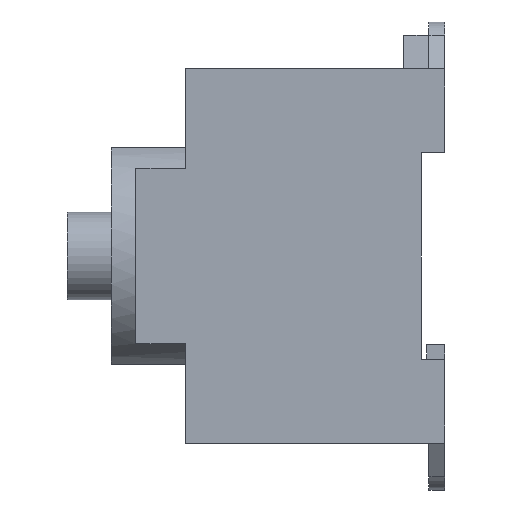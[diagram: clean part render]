
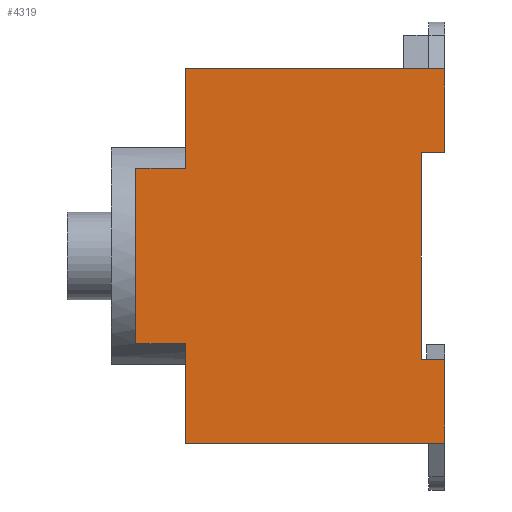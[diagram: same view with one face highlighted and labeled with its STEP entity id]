
A CAD part, left-side view. The second image highlights one B-rep face of the part: STEP entity #4319.
In plain terms, the highlighted planar face has unit normal (-1, 0, 0).
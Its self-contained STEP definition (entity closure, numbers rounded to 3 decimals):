
#6 = EDGE_CURVE ( 'NONE', #1504, #5089, #507, .T. ) ;
#15 = ORIENTED_EDGE ( 'NONE', *, *, #517, .F. ) ;
#148 = EDGE_CURVE ( 'NONE', #3187, #2192, #4290, .T. ) ;
#149 = VECTOR ( 'NONE', #1708, 1000. ) ;
#240 = EDGE_CURVE ( 'NONE', #4952, #4084, #3724, .T. ) ;
#400 = DIRECTION ( 'NONE',  ( 0., 0., -1. ) ) ;
#408 = EDGE_CURVE ( 'NONE', #1504, #1253, #3778, .T. ) ;
#423 = VECTOR ( 'NONE', #4662, 1000. ) ;
#491 = VERTEX_POINT ( 'NONE', #3114 ) ;
#507 = LINE ( 'NONE', #4454, #4189 ) ;
#517 = EDGE_CURVE ( 'NONE', #491, #4124, #2292, .T. ) ;
#539 = DIRECTION ( 'NONE',  ( 0., 0., 1. ) ) ;
#542 = DIRECTION ( 'NONE',  ( 0., -1., 0. ) ) ;
#554 = CARTESIAN_POINT ( 'NONE',  ( -24., 0., -17.65 ) ) ;
#594 = ORIENTED_EDGE ( 'NONE', *, *, #5120, .F. ) ;
#629 = EDGE_CURVE ( 'NONE', #4512, #1788, #3035, .T. ) ;
#801 = CARTESIAN_POINT ( 'NONE',  ( -24., 44.3, -32. ) ) ;
#826 = CARTESIAN_POINT ( 'NONE',  ( -24., 52.8, 15. ) ) ;
#958 = CARTESIAN_POINT ( 'NONE',  ( -24., 44.3, -32. ) ) ;
#1025 = VECTOR ( 'NONE', #1525, 1000. ) ;
#1046 = ORIENTED_EDGE ( 'NONE', *, *, #240, .T. ) ;
#1059 = DIRECTION ( 'NONE',  ( 0., 0., 1. ) ) ;
#1182 = EDGE_CURVE ( 'NONE', #2512, #4952, #3693, .T. ) ;
#1253 = VERTEX_POINT ( 'NONE', #4841 ) ;
#1275 = LINE ( 'NONE', #5273, #1025 ) ;
#1418 = CARTESIAN_POINT ( 'NONE',  ( -24., 4., -17.65 ) ) ;
#1504 = VERTEX_POINT ( 'NONE', #3596 ) ;
#1525 = DIRECTION ( 'NONE',  ( 0., 0., 1. ) ) ;
#1615 = VECTOR ( 'NONE', #400, 1000. ) ;
#1708 = DIRECTION ( 'NONE',  ( 0., 0., 1. ) ) ;
#1788 = VERTEX_POINT ( 'NONE', #4926 ) ;
#1846 = VECTOR ( 'NONE', #1059, 1000. ) ;
#1909 = DIRECTION ( 'NONE',  ( 0., -1., 0. ) ) ;
#1991 = LINE ( 'NONE', #5069, #2161 ) ;
#2004 = VECTOR ( 'NONE', #4265, 1000. ) ;
#2067 = CARTESIAN_POINT ( 'NONE',  ( -24., 44.3, -15. ) ) ;
#2094 = CARTESIAN_POINT ( 'NONE',  ( -24., 0., 32. ) ) ;
#2161 = VECTOR ( 'NONE', #542, 1000. ) ;
#2192 = VERTEX_POINT ( 'NONE', #554 ) ;
#2292 = LINE ( 'NONE', #5138, #149 ) ;
#2317 = PLANE ( 'NONE',  #4230 ) ;
#2396 = ORIENTED_EDGE ( 'NONE', *, *, #629, .F. ) ;
#2432 = ORIENTED_EDGE ( 'NONE', *, *, #4714, .T. ) ;
#2455 = DIRECTION ( 'NONE',  ( 0., -1., 0. ) ) ;
#2490 = LINE ( 'NONE', #3801, #5304 ) ;
#2512 = VERTEX_POINT ( 'NONE', #4368 ) ;
#2550 = CARTESIAN_POINT ( 'NONE',  ( -24., 0., -32. ) ) ;
#2640 = ORIENTED_EDGE ( 'NONE', *, *, #1182, .T. ) ;
#2803 = EDGE_CURVE ( 'NONE', #2512, #3187, #2882, .T. ) ;
#2882 = LINE ( 'NONE', #4411, #1615 ) ;
#2959 = FACE_OUTER_BOUND ( 'NONE', #4619, .T. ) ;
#2985 = DIRECTION ( 'NONE',  ( 0., -1., 0. ) ) ;
#3029 = DIRECTION ( 'NONE',  ( 0., 0., 1. ) ) ;
#3035 = LINE ( 'NONE', #801, #3098 ) ;
#3059 = CARTESIAN_POINT ( 'NONE',  ( -24., 4., 17.65 ) ) ;
#3088 = LINE ( 'NONE', #826, #4620 ) ;
#3098 = VECTOR ( 'NONE', #3029, 1000. ) ;
#3114 = CARTESIAN_POINT ( 'NONE',  ( -24., 52.8, -15. ) ) ;
#3187 = VERTEX_POINT ( 'NONE', #1418 ) ;
#3367 = ORIENTED_EDGE ( 'NONE', *, *, #408, .T. ) ;
#3596 = CARTESIAN_POINT ( 'NONE',  ( -24., 44.3, -32. ) ) ;
#3693 = LINE ( 'NONE', #3059, #2004 ) ;
#3724 = LINE ( 'NONE', #2550, #1846 ) ;
#3777 = ORIENTED_EDGE ( 'NONE', *, *, #3825, .T. ) ;
#3778 = LINE ( 'NONE', #958, #423 ) ;
#3801 = CARTESIAN_POINT ( 'NONE',  ( -24., 52.8, -15. ) ) ;
#3825 = EDGE_CURVE ( 'NONE', #1253, #2192, #1275, .T. ) ;
#3827 = ORIENTED_EDGE ( 'NONE', *, *, #148, .F. ) ;
#3936 = ORIENTED_EDGE ( 'NONE', *, *, #6, .F. ) ;
#3998 = ORIENTED_EDGE ( 'NONE', *, *, #2803, .F. ) ;
#4001 = CARTESIAN_POINT ( 'NONE',  ( -24., 44.3, 15. ) ) ;
#4059 = DIRECTION ( 'NONE',  ( 0., 0., -1. ) ) ;
#4084 = VERTEX_POINT ( 'NONE', #2094 ) ;
#4107 = CARTESIAN_POINT ( 'NONE',  ( -24., 0., 17.65 ) ) ;
#4124 = VERTEX_POINT ( 'NONE', #5376 ) ;
#4189 = VECTOR ( 'NONE', #539, 1000. ) ;
#4230 = AXIS2_PLACEMENT_3D ( 'NONE', #4440, #5491, #4059 ) ;
#4265 = DIRECTION ( 'NONE',  ( 0., -1., 0. ) ) ;
#4290 = LINE ( 'NONE', #4765, #5326 ) ;
#4319 = ADVANCED_FACE ( 'NONE', ( #2959 ), #2317, .F. ) ;
#4368 = CARTESIAN_POINT ( 'NONE',  ( -24., 4., 17.65 ) ) ;
#4405 = ORIENTED_EDGE ( 'NONE', *, *, #5340, .F. ) ;
#4411 = CARTESIAN_POINT ( 'NONE',  ( -24., 4., 17.65 ) ) ;
#4440 = CARTESIAN_POINT ( 'NONE',  ( -24., 44.3, -32. ) ) ;
#4454 = CARTESIAN_POINT ( 'NONE',  ( -24., 44.3, -32. ) ) ;
#4512 = VERTEX_POINT ( 'NONE', #4001 ) ;
#4619 = EDGE_LOOP ( 'NONE', ( #3998, #2640, #1046, #594, #2396, #4405, #15, #2432, #3936, #3367, #3777, #3827 ) ) ;
#4620 = VECTOR ( 'NONE', #2985, 1000. ) ;
#4662 = DIRECTION ( 'NONE',  ( 0., -1., 0. ) ) ;
#4714 = EDGE_CURVE ( 'NONE', #491, #5089, #2490, .T. ) ;
#4765 = CARTESIAN_POINT ( 'NONE',  ( -24., 4., -17.65 ) ) ;
#4841 = CARTESIAN_POINT ( 'NONE',  ( -24., 0., -32. ) ) ;
#4926 = CARTESIAN_POINT ( 'NONE',  ( -24., 44.3, 32. ) ) ;
#4952 = VERTEX_POINT ( 'NONE', #4107 ) ;
#5069 = CARTESIAN_POINT ( 'NONE',  ( -24., 44.3, 32. ) ) ;
#5089 = VERTEX_POINT ( 'NONE', #2067 ) ;
#5120 = EDGE_CURVE ( 'NONE', #1788, #4084, #1991, .T. ) ;
#5138 = CARTESIAN_POINT ( 'NONE',  ( -24., 52.8, -15. ) ) ;
#5273 = CARTESIAN_POINT ( 'NONE',  ( -24., 0., -32. ) ) ;
#5304 = VECTOR ( 'NONE', #1909, 1000. ) ;
#5326 = VECTOR ( 'NONE', #2455, 1000. ) ;
#5340 = EDGE_CURVE ( 'NONE', #4124, #4512, #3088, .T. ) ;
#5376 = CARTESIAN_POINT ( 'NONE',  ( -24., 52.8, 15. ) ) ;
#5491 = DIRECTION ( 'NONE',  ( 1., 0., 0. ) ) ;
